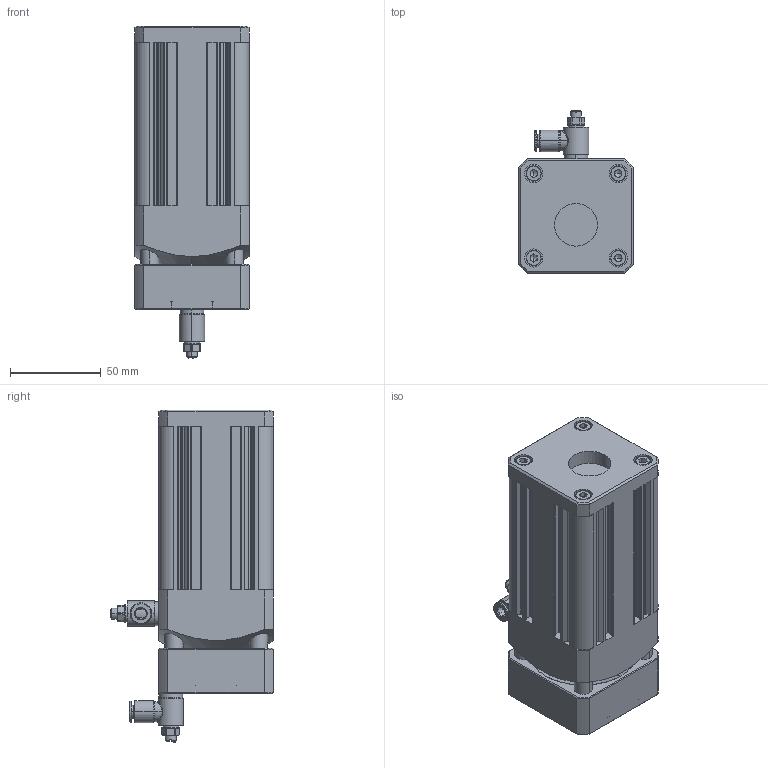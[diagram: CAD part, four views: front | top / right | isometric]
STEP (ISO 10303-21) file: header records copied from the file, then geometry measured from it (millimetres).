
FILE_DESCRIPTION (( 'STEP AP203' ), '1' );
FILE_NAME ('VNOK-D-AL-E-0050-0090.STEP', '2019-02-06T12:50:45', ( '' ), ( '' ), 'SwSTEP 2.0', 'SolidWorks 2018', '' );
FILE_SCHEMA (( 'CONFIG_CONTROL_DESIGN' ));
Length unit declared in the file: millimetre
Products named in the file (1): VNOK-D-AL-E-0050-0090
Bounding box: 63 x 89.6 x 182.65 mm (x, y, z)
Volume: 565855.9 mm3; surface area: 70584.7 mm2
Topology: 1 solids, 19 shells, 907 faces, 2399 edges, 1558 vertices
Faces by surface type: plane 456, cylinder 290, cone 90, bspline 71
Entity records: 39178 total; most frequent: CARTESIAN_POINT 17668, ORIENTED_EDGE 4734, DIRECTION 4062, EDGE_CURVE 2367, VERTEX_POINT 1558, AXIS2_PLACEMENT_3D 1471, VECTOR 1120, LINE 1120
